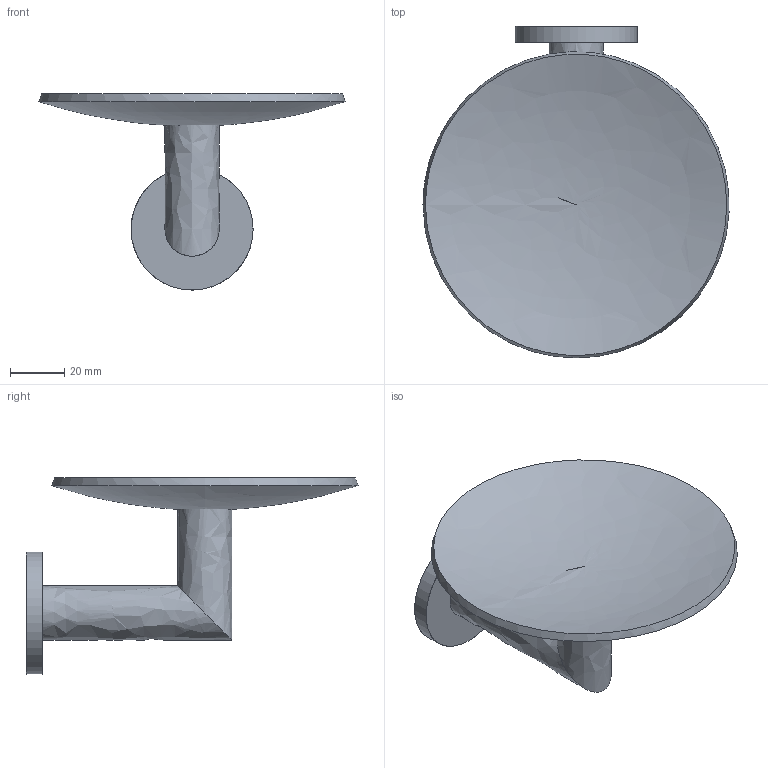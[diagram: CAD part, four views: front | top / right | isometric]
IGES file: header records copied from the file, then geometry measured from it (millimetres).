
Global section: file name: /Users/f/Desktop/I'/AE124.igs; native system: Rhinoceros ( Jul 22 2010 ); preprocessor: Trout Lake IGES 012 Jul 22 2010; date: 100727.144932; units: millimetre
Bounding box: 112.93 x 122.5 x 72.35 mm (x, y, z)
Surface area: 32208.1 mm2 (no closed solid volume)
Topology: 0 solids, 0 shells, 10 faces, 116 edges, 111 vertices
Faces by surface type: bspline 10
